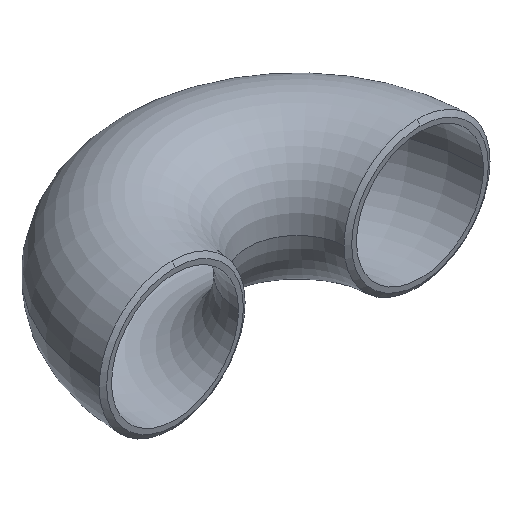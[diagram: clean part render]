
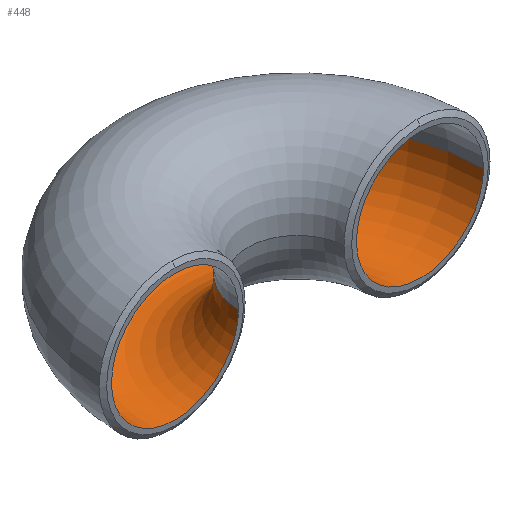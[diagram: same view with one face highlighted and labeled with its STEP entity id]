
A CAD part, isometric view. The second image highlights one B-rep face of the part: STEP entity #448.
In plain terms, the highlighted toroidal (fillet/blend) face has major radius 50.8 mm and minor radius 26.35 mm.
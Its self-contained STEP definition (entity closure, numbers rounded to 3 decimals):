
#1 = AXIS2_PLACEMENT_3D ( 'NONE', #412, #591, #417 ) ;
#22 = ORIENTED_EDGE ( 'NONE', *, *, #38, .F. ) ;
#28 = VERTEX_POINT ( 'NONE', #36 ) ;
#31 = ORIENTED_EDGE ( 'NONE', *, *, #106, .T. ) ;
#36 = CARTESIAN_POINT ( 'NONE',  ( 75.25, 0., 0. ) ) ;
#38 = EDGE_CURVE ( 'NONE', #580, #28, #76, .T. ) ;
#45 = DIRECTION ( 'NONE',  ( 0., 0., -1. ) ) ;
#50 = CARTESIAN_POINT ( 'NONE',  ( 127.95, 0., 0. ) ) ;
#62 = TOROIDAL_SURFACE ( 'NONE', #280, 50.8, 26.35 ) ;
#76 = CIRCLE ( 'NONE', #406, 26.35 ) ;
#87 = CIRCLE ( 'NONE', #1, 24.45 ) ;
#88 = DIRECTION ( 'NONE',  ( 0., 0., 1. ) ) ;
#95 = DIRECTION ( 'NONE',  ( -1., 0., 0. ) ) ;
#106 = EDGE_CURVE ( 'NONE', #115, #28, #87, .T. ) ;
#115 = VERTEX_POINT ( 'NONE', #589 ) ;
#135 = DIRECTION ( 'NONE',  ( 0., 0., -1. ) ) ;
#143 = CIRCLE ( 'NONE', #214, 26.35 ) ;
#144 = FACE_OUTER_BOUND ( 'NONE', #463, .T. ) ;
#160 = ORIENTED_EDGE ( 'NONE', *, *, #506, .F. ) ;
#199 = VERTEX_POINT ( 'NONE', #523 ) ;
#214 = AXIS2_PLACEMENT_3D ( 'NONE', #508, #290, #461 ) ;
#220 = CARTESIAN_POINT ( 'NONE',  ( 101.6, 0., 0. ) ) ;
#235 = DIRECTION ( 'NONE',  ( -1., 0., 0. ) ) ;
#272 = DIRECTION ( 'NONE',  ( 0., 1., 0. ) ) ;
#280 = AXIS2_PLACEMENT_3D ( 'NONE', #328, #135, #95 ) ;
#290 = DIRECTION ( 'NONE',  ( 0., -1., 0. ) ) ;
#297 = ORIENTED_EDGE ( 'NONE', *, *, #564, .T. ) ;
#328 = CARTESIAN_POINT ( 'NONE',  ( 50.8, 0., 0. ) ) ;
#370 = CIRCLE ( 'NONE', #378, 77.15 ) ;
#378 = AXIS2_PLACEMENT_3D ( 'NONE', #592, #45, #235 ) ;
#406 = AXIS2_PLACEMENT_3D ( 'NONE', #220, #272, #88 ) ;
#412 = CARTESIAN_POINT ( 'NONE',  ( 50.8, 0., 0. ) ) ;
#417 = DIRECTION ( 'NONE',  ( -1., 0., 0. ) ) ;
#448 = ADVANCED_FACE ( 'NONE', ( #144 ), #62, .F. ) ;
#461 = DIRECTION ( 'NONE',  ( 0., 0., 1. ) ) ;
#463 = EDGE_LOOP ( 'NONE', ( #160, #297, #31, #22 ) ) ;
#506 = EDGE_CURVE ( 'NONE', #199, #580, #370, .T. ) ;
#508 = CARTESIAN_POINT ( 'NONE',  ( 0., 0., 0. ) ) ;
#523 = CARTESIAN_POINT ( 'NONE',  ( -26.35, 0., 0. ) ) ;
#564 = EDGE_CURVE ( 'NONE', #199, #115, #143, .T. ) ;
#580 = VERTEX_POINT ( 'NONE', #50 ) ;
#589 = CARTESIAN_POINT ( 'NONE',  ( 26.35, 0., 0. ) ) ;
#591 = DIRECTION ( 'NONE',  ( 0., 0., -1. ) ) ;
#592 = CARTESIAN_POINT ( 'NONE',  ( 50.8, 0., 0. ) ) ;
